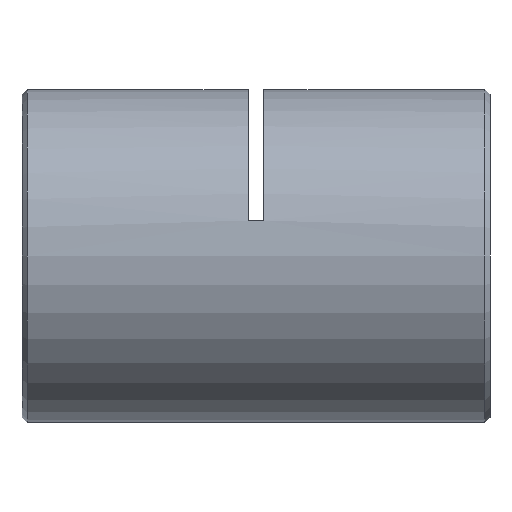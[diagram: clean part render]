
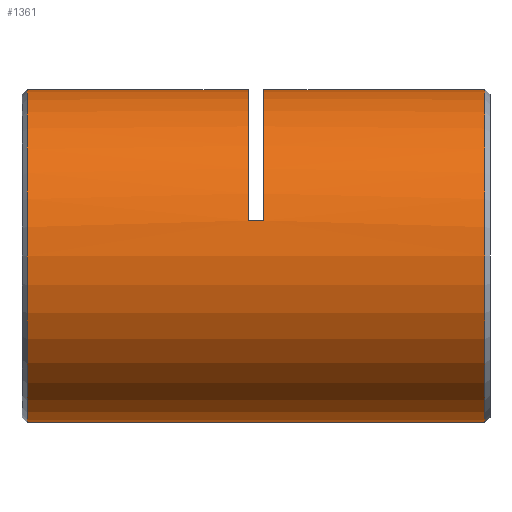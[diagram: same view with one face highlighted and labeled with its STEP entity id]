
A CAD part, left-side view. The second image highlights one B-rep face of the part: STEP entity #1361.
In plain terms, the highlighted cylindrical face has radius 16 mm (diameter 32 mm), a partial arc.
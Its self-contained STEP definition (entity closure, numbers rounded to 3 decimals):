
#73 = ORIENTED_EDGE ( 'NONE', *, *, #4236, .F. ) ;
#290 = LINE ( 'NONE', #1528, #4154 ) ;
#349 = DIRECTION ( 'NONE',  ( 0., 1., 0. ) ) ;
#374 = VECTOR ( 'NONE', #5230, 1000. ) ;
#385 = CARTESIAN_POINT ( 'NONE',  ( 0., 44.75, 0. ) ) ;
#407 = CARTESIAN_POINT ( 'NONE',  ( 0., 0.75, -16. ) ) ;
#487 = VERTEX_POINT ( 'NONE', #5798 ) ;
#596 = VERTEX_POINT ( 'NONE', #1567 ) ;
#615 = VERTEX_POINT ( 'NONE', #2612 ) ;
#623 = CARTESIAN_POINT ( 'NONE',  ( 0., 23.5, 0. ) ) ;
#665 = AXIS2_PLACEMENT_3D ( 'NONE', #385, #2649, #5624 ) ;
#716 = DIRECTION ( 'NONE',  ( 0., 0., 1. ) ) ;
#745 = EDGE_CURVE ( 'NONE', #487, #3022, #290, .T. ) ;
#825 = CARTESIAN_POINT ( 'NONE',  ( 0., 0., 16. ) ) ;
#834 = ORIENTED_EDGE ( 'NONE', *, *, #5928, .T. ) ;
#884 = DIRECTION ( 'NONE',  ( 0., 0., 1. ) ) ;
#929 = CARTESIAN_POINT ( 'NONE',  ( 0., 0.75, 16. ) ) ;
#940 = CARTESIAN_POINT ( 'NONE',  ( 0., 0.75, 0. ) ) ;
#1099 = VERTEX_POINT ( 'NONE', #5435 ) ;
#1122 = CARTESIAN_POINT ( 'NONE',  ( 0., 44.75, 16. ) ) ;
#1210 = DIRECTION ( 'NONE',  ( 0., 0., 1. ) ) ;
#1361 = ADVANCED_FACE ( 'NONE', ( #3303 ), #4756, .T. ) ;
#1440 = VECTOR ( 'NONE', #4718, 1000. ) ;
#1528 = CARTESIAN_POINT ( 'NONE',  ( 0., 0., 16. ) ) ;
#1567 = CARTESIAN_POINT ( 'NONE',  ( -15.632, 23.5, 3.413 ) ) ;
#1635 = EDGE_CURVE ( 'NONE', #3022, #2614, #4672, .T. ) ;
#1662 = ORIENTED_EDGE ( 'NONE', *, *, #745, .T. ) ;
#1732 = DIRECTION ( 'NONE',  ( 0., 1., 0. ) ) ;
#1957 = AXIS2_PLACEMENT_3D ( 'NONE', #5960, #2107, #1210 ) ;
#2107 = DIRECTION ( 'NONE',  ( 0., 1., 0. ) ) ;
#2114 = ORIENTED_EDGE ( 'NONE', *, *, #6041, .T. ) ;
#2230 = LINE ( 'NONE', #825, #3273 ) ;
#2378 = ORIENTED_EDGE ( 'NONE', *, *, #4394, .F. ) ;
#2406 = EDGE_CURVE ( 'NONE', #5361, #1099, #2230, .T. ) ;
#2421 = ORIENTED_EDGE ( 'NONE', *, *, #2969, .T. ) ;
#2471 = CIRCLE ( 'NONE', #4576, 16. ) ;
#2612 = CARTESIAN_POINT ( 'NONE',  ( -15.632, 22., 3.413 ) ) ;
#2614 = VERTEX_POINT ( 'NONE', #5256 ) ;
#2649 = DIRECTION ( 'NONE',  ( 0., -1., 0. ) ) ;
#2695 = DIRECTION ( 'NONE',  ( 0., 0., 1. ) ) ;
#2816 = ORIENTED_EDGE ( 'NONE', *, *, #1635, .T. ) ;
#2849 = LINE ( 'NONE', #3302, #374 ) ;
#2912 = VERTEX_POINT ( 'NONE', #407 ) ;
#2969 = EDGE_CURVE ( 'NONE', #2912, #5361, #5456, .T. ) ;
#2979 = DIRECTION ( 'NONE',  ( 0., 1., 0. ) ) ;
#3022 = VERTEX_POINT ( 'NONE', #1122 ) ;
#3273 = VECTOR ( 'NONE', #349, 1000. ) ;
#3302 = CARTESIAN_POINT ( 'NONE',  ( 0., 0., -16. ) ) ;
#3303 = FACE_OUTER_BOUND ( 'NONE', #5451, .T. ) ;
#4036 = AXIS2_PLACEMENT_3D ( 'NONE', #940, #5176, #884 ) ;
#4108 = LINE ( 'NONE', #6026, #1440 ) ;
#4154 = VECTOR ( 'NONE', #2979, 1000. ) ;
#4235 = ORIENTED_EDGE ( 'NONE', *, *, #2406, .T. ) ;
#4236 = EDGE_CURVE ( 'NONE', #615, #1099, #2471, .T. ) ;
#4394 = EDGE_CURVE ( 'NONE', #2912, #2614, #2849, .T. ) ;
#4576 = AXIS2_PLACEMENT_3D ( 'NONE', #5938, #5107, #2695 ) ;
#4672 = CIRCLE ( 'NONE', #665, 16. ) ;
#4718 = DIRECTION ( 'NONE',  ( 0., 1., 0. ) ) ;
#4756 = CYLINDRICAL_SURFACE ( 'NONE', #1957, 16. ) ;
#5027 = CIRCLE ( 'NONE', #6023, 16. ) ;
#5107 = DIRECTION ( 'NONE',  ( 0., 1., 0. ) ) ;
#5176 = DIRECTION ( 'NONE',  ( 0., 1., 0. ) ) ;
#5230 = DIRECTION ( 'NONE',  ( 0., 1., 0. ) ) ;
#5256 = CARTESIAN_POINT ( 'NONE',  ( 0., 44.75, -16. ) ) ;
#5361 = VERTEX_POINT ( 'NONE', #929 ) ;
#5435 = CARTESIAN_POINT ( 'NONE',  ( 0., 22., 16. ) ) ;
#5451 = EDGE_LOOP ( 'NONE', ( #2378, #2421, #4235, #73, #2114, #834, #1662, #2816 ) ) ;
#5456 = CIRCLE ( 'NONE', #4036, 16. ) ;
#5624 = DIRECTION ( 'NONE',  ( 0., 0., -1. ) ) ;
#5798 = CARTESIAN_POINT ( 'NONE',  ( 0., 23.5, 16. ) ) ;
#5928 = EDGE_CURVE ( 'NONE', #596, #487, #5027, .T. ) ;
#5938 = CARTESIAN_POINT ( 'NONE',  ( 0., 22., 0. ) ) ;
#5960 = CARTESIAN_POINT ( 'NONE',  ( 0., 0., 0. ) ) ;
#6023 = AXIS2_PLACEMENT_3D ( 'NONE', #623, #1732, #716 ) ;
#6026 = CARTESIAN_POINT ( 'NONE',  ( -15.632, 22.75, 3.413 ) ) ;
#6041 = EDGE_CURVE ( 'NONE', #615, #596, #4108, .T. ) ;
